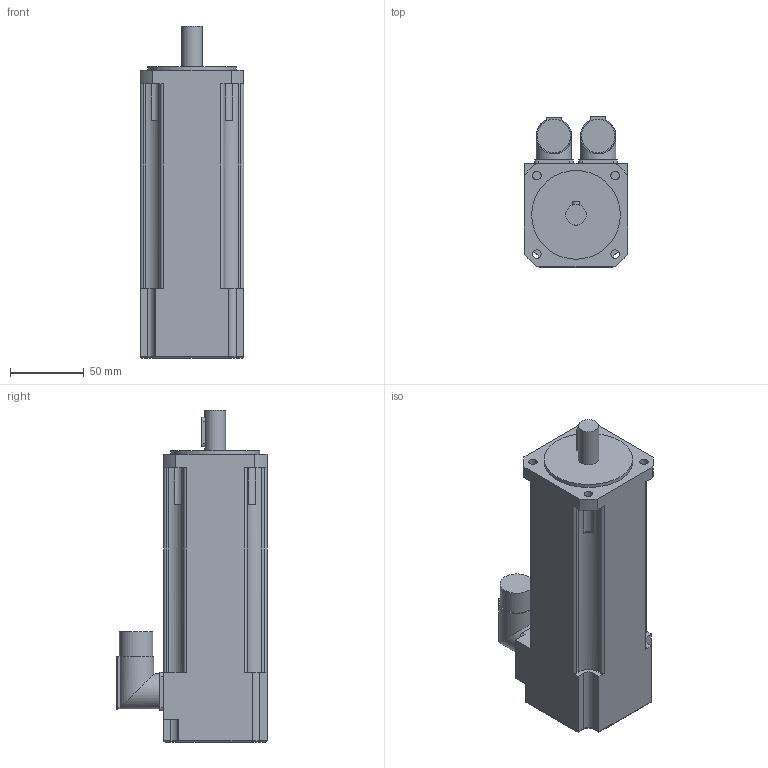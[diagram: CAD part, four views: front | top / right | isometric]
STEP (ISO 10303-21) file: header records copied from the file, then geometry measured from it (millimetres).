
FILE_DESCRIPTION(/* description */ (''),/* implementation_level */ '2;1');
FILE_NAME(/* name */ '\\Lafnas01\disegni\Archivi Lafert\3D\CAD 3D\MODELLI\Assiemi clienti\Serad\Modelli 3D Serad\B36Q\Encoder\Enc Without Brake\B3603Qxx6ARx2033.ipt.stp',/* time_stamp */ '2015-09-07T10:49:22+02:00',/* author */ ('Pastrello Ylenia'),/* organization */ (''),/* preprocessor_version */ 'ST-DEVELOPER v15.6',/* originating_system */ 'Autodesk Inventor 2015',/* authorisation */ '');
FILE_SCHEMA (('AUTOMOTIVE_DESIGN { 1 0 10303 214 3 1 1 }'));
Length unit declared in the file: millimetre
Products named in the file (1): B3603Qxx6ARx2033
Bounding box: 70 x 101.5 x 224.5 mm (x, y, z)
Volume: 913564.7 mm3; surface area: 72608.7 mm2
Topology: 1 solids, 1 shells, 121 faces, 322 edges, 210 vertices
Faces by surface type: plane 59, cylinder 58, torus 4
Full cylindrical faces by diameter (mm): 5.8 x4, 14 x1, 22.7 x2, 24 x2, 60 x1
Entity records: 3806 total; most frequent: CARTESIAN_POINT 678, DIRECTION 676, ORIENTED_EDGE 624, EDGE_CURVE 312, AXIS2_PLACEMENT_3D 244, VERTEX_POINT 210, LINE 188, VECTOR 188
